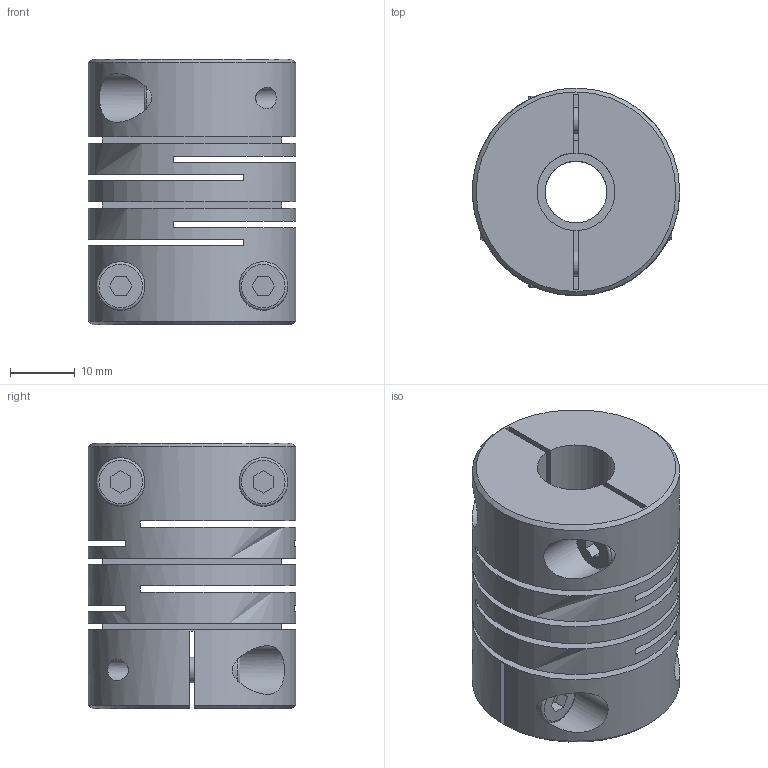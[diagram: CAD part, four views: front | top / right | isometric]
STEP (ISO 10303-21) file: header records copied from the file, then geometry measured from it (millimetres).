
FILE_DESCRIPTION (( 'STEP AP214' ), '1' );
FILE_NAME ('2246-32-B12-3_8-NI.step', '2022-05-27T09:31:10', ( '' ), ( '' ), 'SwSTEP 2.0', 'SolidWorks 2019', '' );
FILE_SCHEMA (( 'AUTOMOTIVE_DESIGN' ));
Length unit declared in the file: millimetre
Products named in the file (1): 2246-32-B12-3_8-NI
Bounding box: 32 x 32 x 41 mm (x, y, z)
Volume: 24589.8 mm3; surface area: 14809.7 mm2
Topology: 1 solids, 1 shells, 116 faces, 293 edges, 196 vertices
Faces by surface type: plane 75, cylinder 30, cone 7, torus 4
Full cylindrical faces by diameter (mm): 3.3 x4, 4 x4, 4.5 x4, 9.525 x4, 12 x3, 32 x1
Entity records: 4206 total; most frequent: CARTESIAN_POINT 1009, DIRECTION 524, ORIENTED_EDGE 458, EDGE_CURVE 229, AXIS2_PLACEMENT_3D 194, EDGE_LOOP 188, VERTEX_POINT 165, FACE_OUTER_BOUND 140
